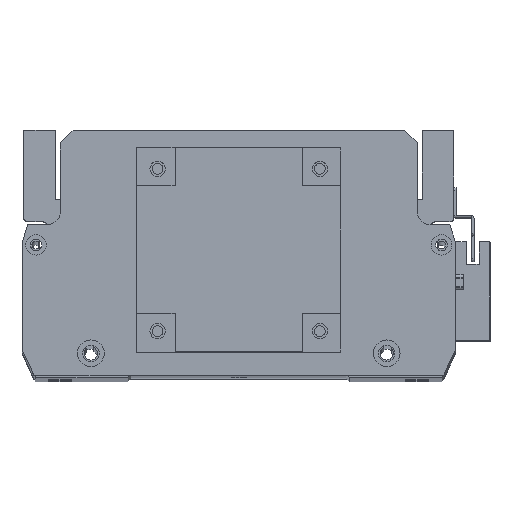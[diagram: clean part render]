
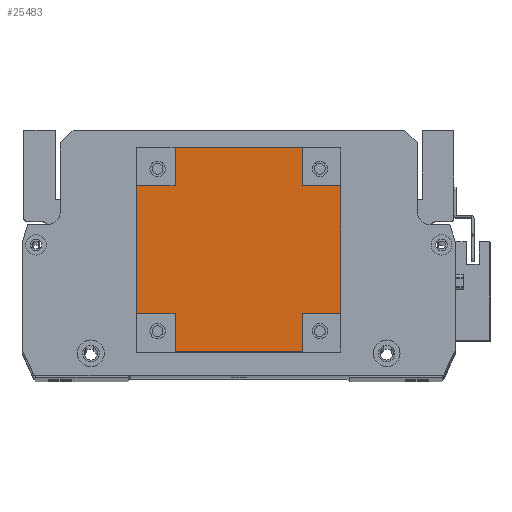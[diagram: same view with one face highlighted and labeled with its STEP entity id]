
A CAD part, top view. The second image highlights one B-rep face of the part: STEP entity #25483.
In plain terms, the highlighted planar face has unit normal (0, 0, 1).
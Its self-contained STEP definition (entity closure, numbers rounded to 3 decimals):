
#113 = VECTOR ( 'NONE', #20697, 1000. ) ;
#149 = VECTOR ( 'NONE', #14610, 1000. ) ;
#183 = DIRECTION ( 'NONE',  ( -1., 0., 0. ) ) ;
#413 = ORIENTED_EDGE ( 'NONE', *, *, #23345, .F. ) ;
#1223 = VERTEX_POINT ( 'NONE', #24494 ) ;
#1892 = VERTEX_POINT ( 'NONE', #10090 ) ;
#1932 = DIRECTION ( 'NONE',  ( 0., -1., 0. ) ) ;
#2029 = DIRECTION ( 'NONE',  ( -1., 0., 0. ) ) ;
#2282 = ORIENTED_EDGE ( 'NONE', *, *, #23661, .F. ) ;
#2670 = ORIENTED_EDGE ( 'NONE', *, *, #22454, .T. ) ;
#2699 = VECTOR ( 'NONE', #12042, 1000. ) ;
#2973 = LINE ( 'NONE', #23913, #7892 ) ;
#3544 = CARTESIAN_POINT ( 'NONE',  ( 65., 0., 101.5 ) ) ;
#3842 = CARTESIAN_POINT ( 'NONE',  ( 65., 0., 101.5 ) ) ;
#4214 = CARTESIAN_POINT ( 'NONE',  ( 15., 80., 101.5 ) ) ;
#4503 = CARTESIAN_POINT ( 'NONE',  ( 65., 65., 101.5 ) ) ;
#5405 = ORIENTED_EDGE ( 'NONE', *, *, #23438, .F. ) ;
#5635 = DIRECTION ( 'NONE',  ( 0., -1., 0. ) ) ;
#5660 = LINE ( 'NONE', #6672, #113 ) ;
#5695 = VERTEX_POINT ( 'NONE', #24241 ) ;
#6672 = CARTESIAN_POINT ( 'NONE',  ( 0., 80., 101.5 ) ) ;
#7892 = VECTOR ( 'NONE', #11907, 1000. ) ;
#8039 = CARTESIAN_POINT ( 'NONE',  ( 0., 0., 101.5 ) ) ;
#8289 = LINE ( 'NONE', #8039, #2699 ) ;
#8576 = VERTEX_POINT ( 'NONE', #3842 ) ;
#8738 = CARTESIAN_POINT ( 'NONE',  ( 65., 80., 101.5 ) ) ;
#9502 = VECTOR ( 'NONE', #183, 1000. ) ;
#9727 = CARTESIAN_POINT ( 'NONE',  ( 15., 65., 101.5 ) ) ;
#9828 = VECTOR ( 'NONE', #5635, 1000. ) ;
#10090 = CARTESIAN_POINT ( 'NONE',  ( 65., 15., 101.5 ) ) ;
#10117 = ORIENTED_EDGE ( 'NONE', *, *, #23576, .F. ) ;
#11435 = VERTEX_POINT ( 'NONE', #4503 ) ;
#11473 = DIRECTION ( 'NONE',  ( 0., 1., 0. ) ) ;
#11574 = ORIENTED_EDGE ( 'NONE', *, *, #23387, .F. ) ;
#11735 = LINE ( 'NONE', #13464, #16400 ) ;
#11907 = DIRECTION ( 'NONE',  ( -1., 0., 0. ) ) ;
#12042 = DIRECTION ( 'NONE',  ( 0., -1., 0. ) ) ;
#12319 = CARTESIAN_POINT ( 'NONE',  ( 65., 80., 101.5 ) ) ;
#12413 = PLANE ( 'NONE',  #21838 ) ;
#12529 = CARTESIAN_POINT ( 'NONE',  ( 80., 0., 101.5 ) ) ;
#12764 = VECTOR ( 'NONE', #1932, 1000. ) ;
#12887 = CARTESIAN_POINT ( 'NONE',  ( 15., 0., 101.5 ) ) ;
#13289 = LINE ( 'NONE', #4214, #17341 ) ;
#13464 = CARTESIAN_POINT ( 'NONE',  ( 15., 0., 101.5 ) ) ;
#14409 = DIRECTION ( 'NONE',  ( 0., 0., -1. ) ) ;
#14520 = DIRECTION ( 'NONE',  ( 0., 1., 0. ) ) ;
#14610 = DIRECTION ( 'NONE',  ( 1., 0., 0. ) ) ;
#15160 = FACE_OUTER_BOUND ( 'NONE', #20530, .T. ) ;
#15337 = ORIENTED_EDGE ( 'NONE', *, *, #23796, .F. ) ;
#15565 = ORIENTED_EDGE ( 'NONE', *, *, #23740, .F. ) ;
#15891 = VERTEX_POINT ( 'NONE', #19659 ) ;
#16094 = LINE ( 'NONE', #16184, #21333 ) ;
#16123 = LINE ( 'NONE', #26519, #149 ) ;
#16184 = CARTESIAN_POINT ( 'NONE',  ( 65., 65., 101.5 ) ) ;
#16400 = VECTOR ( 'NONE', #11473, 1000. ) ;
#16787 = VERTEX_POINT ( 'NONE', #22391 ) ;
#16929 = VERTEX_POINT ( 'NONE', #18728 ) ;
#17089 = CARTESIAN_POINT ( 'NONE',  ( 0., 0., 101.5 ) ) ;
#17341 = VECTOR ( 'NONE', #22334, 1000. ) ;
#17612 = ORIENTED_EDGE ( 'NONE', *, *, #23185, .T. ) ;
#17650 = VERTEX_POINT ( 'NONE', #8738 ) ;
#18032 = LINE ( 'NONE', #12319, #12764 ) ;
#18728 = CARTESIAN_POINT ( 'NONE',  ( 0., 65., 101.5 ) ) ;
#19659 = CARTESIAN_POINT ( 'NONE',  ( 0., 15., 101.5 ) ) ;
#20237 = VERTEX_POINT ( 'NONE', #9727 ) ;
#20398 = VECTOR ( 'NONE', #14520, 1000. ) ;
#20422 = LINE ( 'NONE', #17089, #24530 ) ;
#20530 = EDGE_LOOP ( 'NONE', ( #17612, #413, #11574, #24618, #5405, #10117, #25068, #2282, #15565, #2670, #15337, #21736 ) ) ;
#20697 = DIRECTION ( 'NONE',  ( -1., 0., 0. ) ) ;
#20724 = CARTESIAN_POINT ( 'NONE',  ( 0., 15., 101.5 ) ) ;
#21333 = VECTOR ( 'NONE', #22231, 1000. ) ;
#21351 = EDGE_CURVE ( 'NONE', #16929, #15891, #8289, .T. ) ;
#21736 = ORIENTED_EDGE ( 'NONE', *, *, #23820, .F. ) ;
#21838 = AXIS2_PLACEMENT_3D ( 'NONE', #26317, #14409, #2029 ) ;
#21990 = VERTEX_POINT ( 'NONE', #22805 ) ;
#22008 = EDGE_CURVE ( 'NONE', #23445, #8576, #20422, .T. ) ;
#22231 = DIRECTION ( 'NONE',  ( 1., 0., 0. ) ) ;
#22334 = DIRECTION ( 'NONE',  ( 0., 1., 0. ) ) ;
#22391 = CARTESIAN_POINT ( 'NONE',  ( 80., 65., 101.5 ) ) ;
#22454 = EDGE_CURVE ( 'NONE', #21990, #16787, #26353, .T. ) ;
#22805 = CARTESIAN_POINT ( 'NONE',  ( 80., 15., 101.5 ) ) ;
#23185 = EDGE_CURVE ( 'NONE', #17650, #5695, #5660, .T. ) ;
#23345 = EDGE_CURVE ( 'NONE', #20237, #5695, #13289, .T. ) ;
#23387 = EDGE_CURVE ( 'NONE', #16929, #20237, #16123, .T. ) ;
#23438 = EDGE_CURVE ( 'NONE', #1223, #15891, #26055, .T. ) ;
#23445 = VERTEX_POINT ( 'NONE', #12887 ) ;
#23576 = EDGE_CURVE ( 'NONE', #23445, #1223, #11735, .T. ) ;
#23661 = EDGE_CURVE ( 'NONE', #1892, #8576, #25114, .T. ) ;
#23740 = EDGE_CURVE ( 'NONE', #21990, #1892, #2973, .T. ) ;
#23796 = EDGE_CURVE ( 'NONE', #11435, #16787, #16094, .T. ) ;
#23820 = EDGE_CURVE ( 'NONE', #17650, #11435, #18032, .T. ) ;
#23913 = CARTESIAN_POINT ( 'NONE',  ( 80., 15., 101.5 ) ) ;
#24241 = CARTESIAN_POINT ( 'NONE',  ( 15., 80., 101.5 ) ) ;
#24494 = CARTESIAN_POINT ( 'NONE',  ( 15., 15., 101.5 ) ) ;
#24530 = VECTOR ( 'NONE', #25091, 1000. ) ;
#24618 = ORIENTED_EDGE ( 'NONE', *, *, #21351, .T. ) ;
#25068 = ORIENTED_EDGE ( 'NONE', *, *, #22008, .T. ) ;
#25091 = DIRECTION ( 'NONE',  ( 1., 0., 0. ) ) ;
#25114 = LINE ( 'NONE', #3544, #9828 ) ;
#25483 = ADVANCED_FACE ( 'NONE', ( #15160 ), #12413, .F. ) ;
#26055 = LINE ( 'NONE', #20724, #9502 ) ;
#26317 = CARTESIAN_POINT ( 'NONE',  ( 0., 0., 101.5 ) ) ;
#26353 = LINE ( 'NONE', #12529, #20398 ) ;
#26519 = CARTESIAN_POINT ( 'NONE',  ( 0., 65., 101.5 ) ) ;
